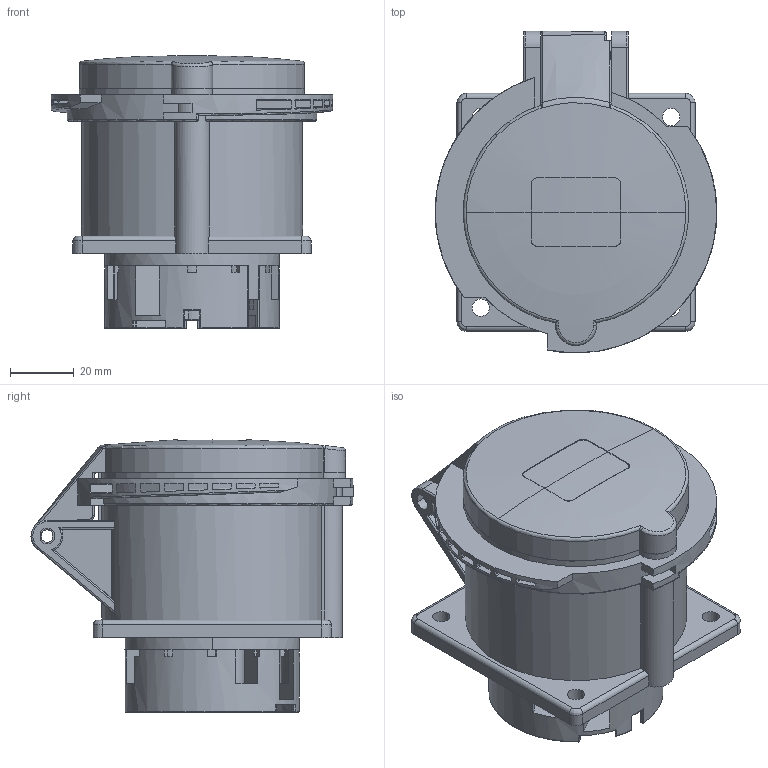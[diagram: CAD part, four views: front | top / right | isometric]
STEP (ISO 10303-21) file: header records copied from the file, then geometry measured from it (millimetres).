
FILE_DESCRIPTION(('FreeCAD Model'),'2;1');
FILE_NAME('Open CASCADE Shape Model','2026-02-03T10:16:00',(''),(''), 'Open CASCADE STEP processor 7.8','FreeCAD','Unknown');
FILE_SCHEMA(('AUTOMOTIVE_DESIGN { 1 0 10303 214 1 1 1 1 }'));
Length unit declared in the file: millimetre
Products named in the file (4): TL3R32453; Tampa; Corpo; Base
Assembly tree (3 placements, depth 2):
  TL3R32453
    Tampa
    Corpo
    Base
Bounding box: 88.7 x 101.42 x 85.87 mm (x, y, z)
Volume: 247463.6 mm3; surface area: 73110.5 mm2
Topology: 3 solids, 3 shells, 859 faces, 2349 edges, 1535 vertices
Faces by surface type: plane 497, cylinder 265, torus 34, bspline 25, sphere 23, cone 15
Full cylindrical faces by diameter (mm): 8.5 x2, 10.5 x1, 11 x2
Entity records: 31050 total; most frequent: CARTESIAN_POINT 9118, ORIENTED_EDGE 4692, DIRECTION 4422, EDGE_CURVE 2346, VERTEX_POINT 1535, AXIS2_PLACEMENT_3D 1483, LINE 1456, VECTOR 1456
